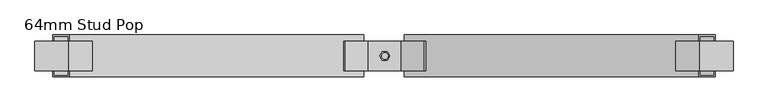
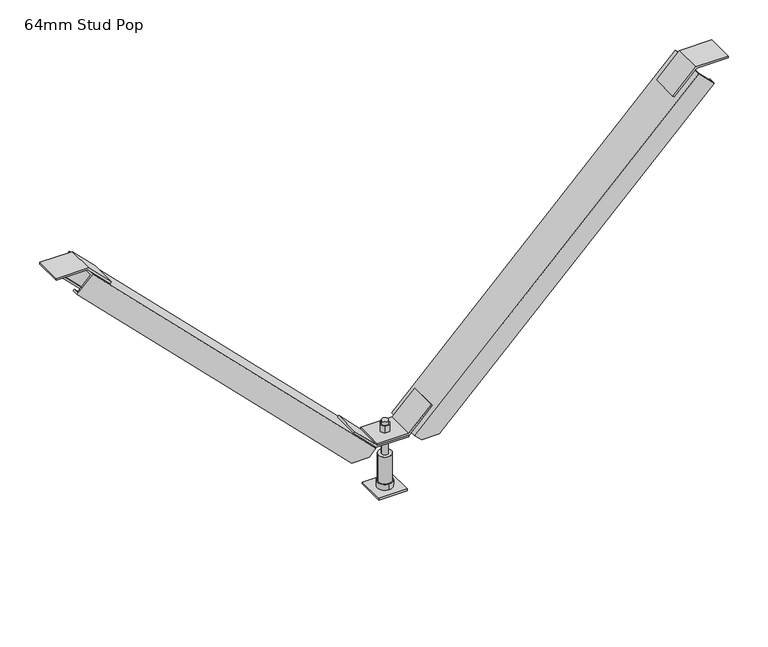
"""IFC4 building model written with IfcOpenShell, lengths in millimetres: beam geometry, Vertibrace Standard Brace : 64mm Stud Pop."""

from ifc_helpers import new_model, si_unit, frame, origin, origin_with_axes, place, context, project, spatial, polyline, circle_curve, outline, extrude, faceted_brep, source, transform, mapped, element, save
from ifc_brep_helpers import plane_surface, cylinder_surface, advanced_brep


def beam_64mm_stud_pop_15a7938f(model_context):
    return source(origin(), model_context, "Body", "SolidModel", [
        extrude(outline(polyline([(547.0013294, 480.8434194), (547.0013294, 530.8278886), (550.0, 530.8278886), (550.0, 479.6013294), (513.7773526, 443.378682), (511.6569723, 445.4990623), (547.0013294, 480.8434194)])), frame((0.0, -22.5, 0.0), z_axis=(0.0, 1.0, 0.0), x_axis=(0.0, 0.0, 1.0)), (0.0, 0.0, 1.0), 45.0),
        extrude(outline(polyline([(547.0013294, -483.535654), (511.6569723, -448.1912969), (513.7773526, -446.0709166), (550.0, -482.293564), (550.0, -533.5201232), (547.0013294, -533.5201232), (547.0013294, -483.535654)])), frame((0.0, -22.5, 0.0), z_axis=(0.0, 1.0, 0.0), x_axis=(0.0, 0.0, 1.0)), (0.0, 0.0, 1.0), 45.0),
        extrude(outline(polyline([(95.6986706, 24.9922346), (95.6986706, -24.9922346), (92.7, -24.9922346), (92.7, 26.2343246), (128.9226474, 62.456972), (131.0430277, 60.3365917), (95.6986706, 24.9922346)])), frame((0.0, -22.5, 0.0), z_axis=(0.0, 1.0, 0.0), x_axis=(0.0, 0.0, 1.0)), (0.0, 0.0, 1.0), 45.0),
        extrude(outline(polyline([(92.6986706, -24.9922346), (128.0430277, -60.3365917), (125.9226474, -62.456972), (89.7, -26.2343246), (89.7, 24.9922346), (92.6986706, 24.9922346), (92.6986706, -24.9922346)])), frame((0.0, -22.5, 0.0), z_axis=(0.0, 1.0, 0.0), x_axis=(0.0, 0.0, 1.0)), (0.0, 0.0, 1.0), 45.0),
        extrude(outline(polyline([(22.5, 22.5), (22.5, -22.5), (-22.5, -22.5), (-22.5, 22.5), (22.5, 22.5)])), origin_with_axes(), (0.0, 0.0, 1.0), 3.0),
        advanced_brep(
        [(-5.0, 0.0, 0.0), (5.0, 0.0, 0.0), (-5.0, 0.0, 113.0), (5.0, 0.0, 113.0), (5.0, 0.0, 3.0), (-5.0, 0.0, 3.0), (-5.0, 0.0, 107.4), (5.0, 0.0, 107.4), (-5.0, 0.0, 58.0), (5.0, 0.0, 58.0), (5.0, 0.0, 83.0), (-5.0, 0.0, 83.0), (5.0, 0.0, 95.7), (-5.0, 0.0, 95.7), (-5.0, 0.0, 89.7), (5.0, 0.0, 89.7), (-10.5, 0.0, 58.0), (10.5, 0.0, 58.0), (-10.5, 0.0, 13.0), (10.5, 0.0, 13.0), (0.0, -12.0, 13.0), (0.0, 12.0, 13.0), (3.75, 6.4951905, 107.4), (-3.75, 6.4951905, 107.4), (-7.5, 0.0, 107.4), (-3.75, -6.4951905, 107.4), (3.75, -6.4951905, 107.4), (7.5, 0.0, 107.4), (3.75, 6.4951905, 95.7), (7.5, 0.0, 95.7), (3.75, -6.4951905, 95.7), (-3.75, -6.4951905, 95.7), (-7.5, 0.0, 95.7), (-3.75, 6.4951905, 95.7), (-10.9696551, 0.0, 89.7), (-5.4848276, -9.5, 89.7), (5.4848276, -9.5, 89.7), (10.9696551, 0.0, 89.7), (5.4848276, 9.5, 89.7), (-5.4848276, 9.5, 89.7), (-10.9696551, 0.0, 83.0), (-5.4848276, 9.5, 83.0), (5.4848276, 9.5, 83.0), (10.9696551, 0.0, 83.0), (5.4848276, -9.5, 83.0), (-5.4848276, -9.5, 83.0), (0.0, -12.0, 3.0), (0.0, 12.0, 3.0)],
        [
            (0, 1, circle_curve(frame((0.0, 0.0, 0.0), z_axis=(0.0, 0.0, -1.0), x_axis=(1.0, 0.0, 0.0)), 5.0)),
            (1, 0, circle_curve(frame((0.0, 0.0, 0.0), z_axis=(0.0, 0.0, -1.0), x_axis=(1.0, 0.0, 0.0)), 5.0)),
            (2, 3, circle_curve(frame((0.0, 0.0, 113.0), z_axis=(0.0, 0.0, 1.0), x_axis=(1.0, 0.0, 0.0)), 5.0)),
            (3, 2, circle_curve(frame((0.0, 0.0, 113.0), z_axis=(0.0, 0.0, 1.0), x_axis=(1.0, 0.0, 0.0)), 5.0)),
            (1, 4),
            (4, 5, circle_curve(frame((0.0, 0.0, 3.0), z_axis=(0.0, 0.0, -1.0), x_axis=(1.0, 0.0, 0.0)), 5.0)),
            (5, 0),
            (2, 6),
            (6, 7, circle_curve(frame((0.0, 0.0, 107.4), z_axis=(0.0, 0.0, 1.0), x_axis=(1.0, 0.0, 0.0)), 5.0)),
            (7, 3),
            (8, 9, circle_curve(frame((0.0, 0.0, 58.0), z_axis=(0.0, 0.0, 1.0), x_axis=(1.0, 0.0, 0.0)), 5.0)),
            (9, 10),
            (10, 11, circle_curve(frame((0.0, 0.0, 83.0), z_axis=(0.0, 0.0, -1.0), x_axis=(1.0, 0.0, 0.0)), 5.0)),
            (11, 8),
            (12, 13, circle_curve(frame((0.0, 0.0, 95.7), z_axis=(0.0, 0.0, -1.0), x_axis=(1.0, 0.0, 0.0)), 5.0)),
            (13, 14),
            (14, 15, circle_curve(frame((0.0, 0.0, 89.7), z_axis=(0.0, 0.0, 1.0), x_axis=(1.0, 0.0, 0.0)), 5.0)),
            (15, 12),
            (5, 4, circle_curve(frame((0.0, 0.0, 3.0), z_axis=(0.0, 0.0, -1.0), x_axis=(1.0, 0.0, 0.0)), 5.0)),
            (7, 6, circle_curve(frame((0.0, 0.0, 107.4), z_axis=(0.0, 0.0, 1.0), x_axis=(1.0, 0.0, 0.0)), 5.0)),
            (9, 8, circle_curve(frame((0.0, 0.0, 58.0), z_axis=(0.0, 0.0, 1.0), x_axis=(1.0, 0.0, 0.0)), 5.0)),
            (11, 10, circle_curve(frame((0.0, 0.0, 83.0), z_axis=(0.0, 0.0, -1.0), x_axis=(1.0, 0.0, 0.0)), 5.0)),
            (13, 12, circle_curve(frame((0.0, 0.0, 95.7), z_axis=(0.0, 0.0, -1.0), x_axis=(1.0, 0.0, 0.0)), 5.0)),
            (15, 14, circle_curve(frame((0.0, 0.0, 89.7), z_axis=(0.0, 0.0, 1.0), x_axis=(1.0, 0.0, 0.0)), 5.0)),
            (16, 17, circle_curve(frame((0.0, 0.0, 58.0), z_axis=(0.0, 0.0, 1.0), x_axis=(1.0, 0.0, 0.0)), 10.5)),
            (17, 16, circle_curve(frame((0.0, 0.0, 58.0), z_axis=(0.0, 0.0, 1.0), x_axis=(1.0, 0.0, 0.0)), 10.5)),
            (16, 18),
            (18, 19, circle_curve(frame((0.0, 0.0, 13.0), z_axis=(0.0, 0.0, 1.0), x_axis=(1.0, 0.0, 0.0)), 10.5)),
            (19, 17),
            (19, 18, circle_curve(frame((0.0, 0.0, 13.0), z_axis=(0.0, 0.0, 1.0), x_axis=(1.0, 0.0, 0.0)), 10.5)),
            (20, 21, circle_curve(frame((0.0, 0.0, 13.0), z_axis=(0.0, 0.0, 1.0), x_axis=(0.0, 1.0, 0.0)), 12.0)),
            (21, 20, circle_curve(frame((0.0, 0.0, 13.0), z_axis=(0.0, 0.0, 1.0), x_axis=(0.0, 1.0, 0.0)), 12.0)),
            (22, 23),
            (23, 24),
            (24, 25),
            (25, 26),
            (26, 27),
            (27, 22),
            (28, 29),
            (29, 30),
            (30, 31),
            (31, 32),
            (32, 33),
            (33, 28),
            (22, 28),
            (33, 23),
            (32, 24),
            (31, 25),
            (30, 26),
            (29, 27),
            (34, 35),
            (35, 36),
            (36, 37),
            (37, 38),
            (38, 39),
            (39, 34),
            (40, 41),
            (41, 42),
            (42, 43),
            (43, 44),
            (44, 45),
            (45, 40),
            (34, 40),
            (45, 35),
            (44, 36),
            (43, 37),
            (42, 38),
            (41, 39),
            (46, 47, circle_curve(frame((0.0, 0.0, 3.0), z_axis=(0.0, 0.0, -1.0), x_axis=(0.0, 1.0, 0.0)), 12.0)),
            (47, 46, circle_curve(frame((0.0, 0.0, 3.0), z_axis=(0.0, 0.0, -1.0), x_axis=(0.0, 1.0, 0.0)), 12.0)),
            (47, 21),
            (20, 46),
        ],
        [
            plane_surface(frame((5.0, 0.0, 0.0), z_axis=(0.0, 0.0, -1.0), x_axis=(0.0, -1.0, 0.0))),
            plane_surface(frame((5.0, 0.0, 113.0), z_axis=(0.0, 0.0, 1.0), x_axis=(0.0, 1.0, 0.0))),
            cylinder_surface(origin_with_axes(), 5.0),
            plane_surface(frame((10.5, 0.0, 58.0), z_axis=(0.0, 0.0, 1.0), x_axis=(0.0, 1.0, 0.0))),
            cylinder_surface(frame((0.0, 0.0, 13.0), z_axis=(0.0, 0.0, 1.0), x_axis=(1.0, 0.0, 0.0)), 10.5),
            plane_surface(frame((0.0, 12.0, 13.0), z_axis=(0.0, 0.0, 1.0), x_axis=(-1.0, 0.0, 0.0))),
            plane_surface(frame((3.75, 6.4951905, 107.4), z_axis=(0.0, 0.0, 1.0), x_axis=(-1.0, 0.0, 0.0))),
            plane_surface(frame((3.75, 6.4951905, 95.7), z_axis=(0.0, 0.0, -1.0), x_axis=(1.0, 0.0, 0.0))),
            plane_surface(frame((3.75, 6.4951905, 107.4), z_axis=(0.0, 1.0, 0.0), x_axis=(0.0, 0.0, -1.0))),
            plane_surface(frame((-3.75, 6.4951905, 107.4), z_axis=(-0.866025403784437, 0.5000000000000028, 0.0), x_axis=(0.0, 0.0, -1.0))),
            plane_surface(frame((-7.5, 0.0, 107.4), z_axis=(-0.8660254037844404, -0.4999999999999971, 0.0), x_axis=(0.0, 0.0, -1.0))),
            plane_surface(frame((-3.75, -6.4951905, 107.4), z_axis=(0.0, -1.0, 0.0), x_axis=(0.0, 0.0, -1.0))),
            plane_surface(frame((3.75, -6.4951905, 107.4), z_axis=(0.8660254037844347, -0.500000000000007, 0.0), x_axis=(0.0, 0.0, -1.0))),
            plane_surface(frame((7.5, 0.0, 107.4), z_axis=(0.8660254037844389, 0.49999999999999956, 0.0), x_axis=(0.0, 0.0, -1.0))),
            plane_surface(frame((-10.9696551, 0.0, 89.7), z_axis=(0.0, 0.0, 1.0000000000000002), x_axis=(0.4999999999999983, -0.8660254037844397, 0.0))),
            plane_surface(frame((-10.9696551, 0.0, 83.0), z_axis=(0.0, 0.0, -1.0000000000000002), x_axis=(-0.4999999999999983, 0.8660254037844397, 0.0))),
            plane_surface(frame((-10.9696551, 0.0, 89.7), z_axis=(-0.8660254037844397, -0.4999999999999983, 0.0), x_axis=(0.0, 0.0, -1.0))),
            plane_surface(frame((-5.4848276, -9.5, 89.7), z_axis=(0.0, -1.0, 0.0), x_axis=(0.0, 0.0, -1.0))),
            plane_surface(frame((5.4848276, -9.5, 89.7), z_axis=(0.8660254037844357, -0.5000000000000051, 0.0), x_axis=(0.0, 0.0, -1.0))),
            plane_surface(frame((10.9696551, 0.0, 89.7), z_axis=(0.8660254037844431, 0.4999999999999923, 0.0), x_axis=(0.0, 0.0, -1.0))),
            plane_surface(frame((5.4848276, 9.5, 89.7), z_axis=(0.0, 1.0, 0.0), x_axis=(0.0, 0.0, -1.0))),
            plane_surface(frame((-5.4848276, 9.5, 89.7), z_axis=(-0.8660254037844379, 0.5000000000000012, 0.0), x_axis=(0.0, 0.0, -1.0))),
            plane_surface(frame((0.0, 12.0, 3.0), z_axis=(0.0, 0.0, -1.0), x_axis=(1.0, 0.0, 0.0))),
            cylinder_surface(frame((0.0, 0.0, 3.0), z_axis=(0.0, 0.0, 1.0), x_axis=(0.0, 1.0, 0.0)), 12.0),
        ],
        [
            (0, [[1, 2]]),
            (1, [[3, 4]]),
            (2, [[-2, 5, 6, 7]]),
            (2, [[-3, 8, 9, 10]]),
            (2, [[11, 12, 13, 14]]),
            (2, [[15, 16, 17, 18]]),
            (2, [[-1, -7, 19, -5]]),
            (2, [[-4, -10, 20, -8]]),
            (2, [[21, -14, 22, -12]]),
            (2, [[23, -18, 24, -16]]),
            (3, [[25, 26], [-11, -21]]),
            (4, [[-25, 27, 28, 29]]),
            (4, [[-26, -29, 30, -27]]),
            (5, [[31, 32], [-28, -30]]),
            (6, [[33, 34, 35, 36, 37, 38], [-9, -20]]),
            (7, [[39, 40, 41, 42, 43, 44], [-15, -23]]),
            (8, [[-33, 45, -44, 46]]),
            (9, [[-34, -46, -43, 47]]),
            (10, [[-35, -47, -42, 48]]),
            (11, [[-36, -48, -41, 49]]),
            (12, [[-37, -49, -40, 50]]),
            (13, [[-38, -50, -39, -45]]),
            (14, [[51, 52, 53, 54, 55, 56], [-17, -24]]),
            (15, [[57, 58, 59, 60, 61, 62], [-13, -22]]),
            (16, [[-51, 63, -62, 64]]),
            (17, [[-52, -64, -61, 65]]),
            (18, [[-53, -65, -60, 66]]),
            (19, [[-54, -66, -59, 67]]),
            (20, [[-55, -67, -58, 68]]),
            (21, [[-56, -68, -57, -63]]),
            (22, [[69, 70], [-6, -19]]),
            (23, [[-70, 71, -31, 72]]),
            (23, [[-69, -72, -32, -71]]),
        ],
    ),
        faceted_brep([(39.9343246, 30.0, 85.0), (39.9343246, 32.0, 85.0), (68.0317993, 32.0, 85.0), (68.0317993, 22.0, 85.0), (65.2033722, 22.0, 85.0), (65.2033722, 30.0, 85.0), (39.9343246, -32.0, 85.0), (39.9343246, -30.0, 85.0), (65.2033722, -30.0, 85.0), (65.2033722, -22.0, 85.0), (68.0317993, -22.0, 85.0), (68.0317993, -32.0, 85.0), (30.6485382, 30.0, 94.2857864), (30.6485382, -30.0, 94.2857864), (29.2343246, -32.0, 95.7), (29.2343246, 32.0, 95.7), (478.5343246, 32.0, 545.0), (478.5343246, -32.0, 545.0), (503.283062, -32.0, 520.2512627), (503.283062, -22.0, 520.2512627), (501.8688484, -22.0, 521.6654762), (501.8688484, -30.0, 521.6654762), (479.9485382, -30.0, 543.5857864), (479.9485382, 30.0, 543.5857864), (501.8688484, 30.0, 521.6654762), (501.8688484, 22.0, 521.6654762), (503.283062, 22.0, 520.2512627), (503.283062, 32.0, 520.2512627)], [[[0, 1, 2, 3, 4, 5]], [[6, 7, 8, 9, 10, 11]], [[12, 13, 7, 6, 14, 15, 1, 0]], [[16, 17, 18, 19, 20, 21, 22, 23, 24, 25, 26, 27]], [[16, 27, 2, 1, 15]], [[27, 26, 3, 2]], [[26, 25, 4, 3]], [[25, 24, 5, 4]], [[24, 23, 12, 0, 5]], [[13, 12, 23, 22]], [[22, 21, 8, 7, 13]], [[21, 20, 9, 8]], [[20, 19, 10, 9]], [[19, 18, 11, 10]], [[18, 17, 14, 6, 11]], [[15, 14, 17, 16]]]),
        faceted_brep([(-33.9485382, -30.0, 94.5857864), (-33.9485382, 30.0, 94.5857864), (-43.5343246, 30.0, 85.0), (-43.5343246, 32.0, 85.0), (-32.5343246, 32.0, 96.0), (-32.5343246, -32.0, 96.0), (-43.5343246, -32.0, 85.0), (-43.5343246, -30.0, 85.0), (-481.4883773, -32.0, 544.9540527), (-481.4883773, 32.0, 544.9540527), (-506.2371147, 32.0, 520.2053154), (-506.2371147, 22.0, 520.2053154), (-504.8229011, 22.0, 521.6195289), (-504.8229011, 30.0, 521.6195289), (-482.9025909, 30.0, 543.5398392), (-482.9025909, -30.0, 543.5398392), (-504.8229011, -30.0, 521.6195289), (-504.8229011, -22.0, 521.6195289), (-506.2371147, -22.0, 520.2053154), (-506.2371147, -32.0, 520.2053154), (-71.0317993, -32.0, 85.0), (-71.0317993, -22.0, 85.0), (-71.0317993, 32.0, 85.0), (-68.2033722, 30.0, 85.0), (-68.2033722, 22.0, 85.0), (-71.0317993, 22.0, 85.0), (-68.2033722, -22.0, 85.0), (-68.2033722, -30.0, 85.0)], [[[0, 1, 2, 3, 4, 5, 6, 7]], [[8, 9, 10, 11, 12, 13, 14, 15, 16, 17, 18, 19]], [[8, 19, 20, 6, 5]], [[19, 18, 21, 20]], [[10, 9, 4, 3, 22]], [[5, 4, 9, 8]], [[3, 2, 23, 24, 25, 22]], [[7, 6, 20, 21, 26, 27]], [[18, 17, 26, 21]], [[17, 16, 27, 26]], [[16, 15, 0, 7, 27]], [[1, 0, 15, 14]], [[14, 13, 23, 2, 1]], [[13, 12, 24, 23]], [[12, 11, 25, 24]], [[11, 10, 22, 25]]]),
    ])


if __name__ == "__main__":
    model = new_model("IFC4")
    model_context = context("Model", 3, world=origin())
    ifc_project = project(units=[si_unit("LENGTHUNIT", "METRE", prefix="MILLI")], contexts=[model_context])
    site = spatial("IfcSite", under=ifc_project)
    building = spatial("IfcBuilding", under=site)
    placement = place(None, origin())
    beam_64mm_stud_pop_shape = beam_64mm_stud_pop_15a7938f(model_context)
    element("IfcBeam", 1, ObjectType="Vertibrace Standard Brace : 64mm Stud Pop", at=placement, inside=building, context=model_context, shape_type="MappedRepresentation", body=[
        mapped(beam_64mm_stud_pop_shape, transform((0.0, 0.0, 0.0), x_axis=(1.0, 0.0, 0.0), y_axis=(0.0, 1.0, 0.0), z_axis=(0.0, 0.0, 1.0))),
    ])
    save(model, "model.ifc")
